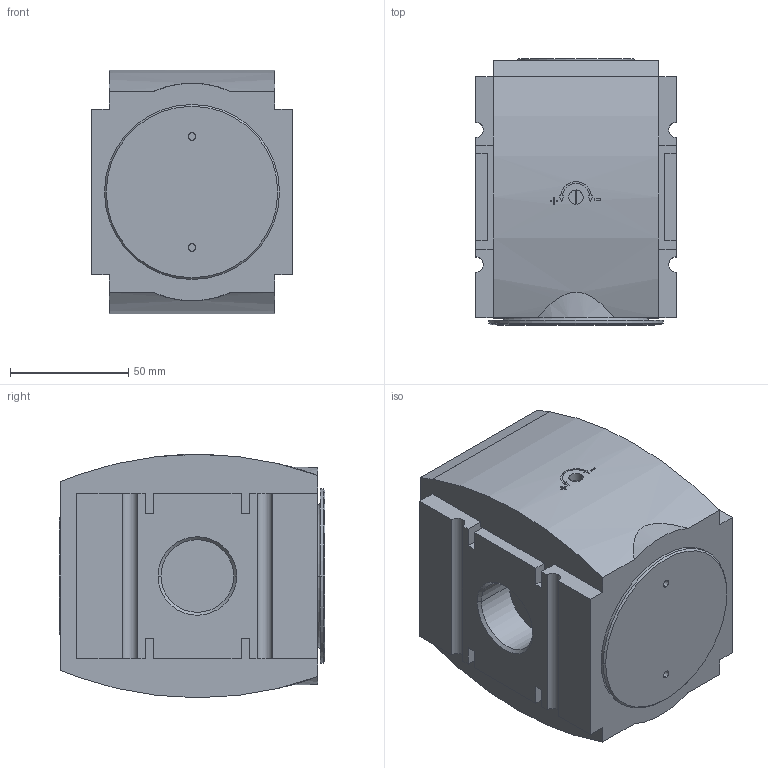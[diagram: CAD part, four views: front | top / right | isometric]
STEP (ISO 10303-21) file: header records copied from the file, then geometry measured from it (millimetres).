
FILE_DESCRIPTION((''),'2;1');
FILE_NAME('R412009275_ASM','2015-05-12T',('pma1hc'),(''),'PRO/ENGINEER BY PARAMETRIC TECHNOLOGY CORPORATION, 2011490','PRO/ENGINEER BY PARAMETRIC TECHNOLOGY CORPORATION, 2011490','');
FILE_SCHEMA(('AUTOMOTIVE_DESIGN_CC2 { 1 2 10303 214 -1 1 5 2 }'));
Length unit declared in the file: millimetre
Products named in the file (2): R412009275; R412009275_ASM
Assembly tree (1 placements, depth 2):
  R412009275_ASM
    R412009275
Bounding box: 85 x 112.5 x 103 mm (x, y, z)
Volume: 817272.5 mm3; surface area: 64762.9 mm2
Topology: 1 solids, 1 shells, 123 faces, 324 edges, 214 vertices
Faces by surface type: plane 91, cylinder 24, cone 6, torus 2
Entity records: 6190 total; most frequent: CARTESIAN_POINT 957, ORIENTED_EDGE 648, DIRECTION 632, PRESENTATION_STYLE_ASSIGNMENT 418, STYLED_ITEM 325, CURVE_STYLE 324, EDGE_CURVE 324, VECTOR 248
